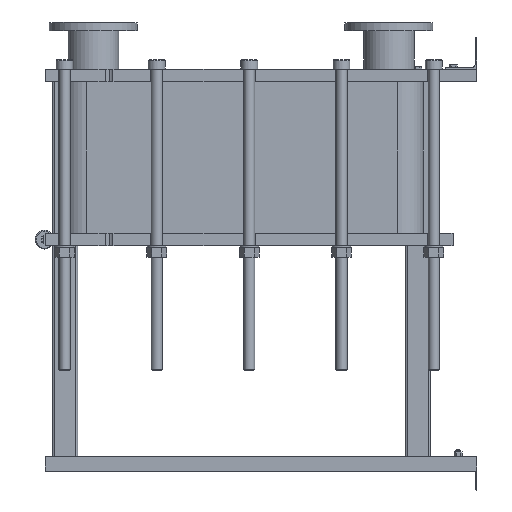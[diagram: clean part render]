
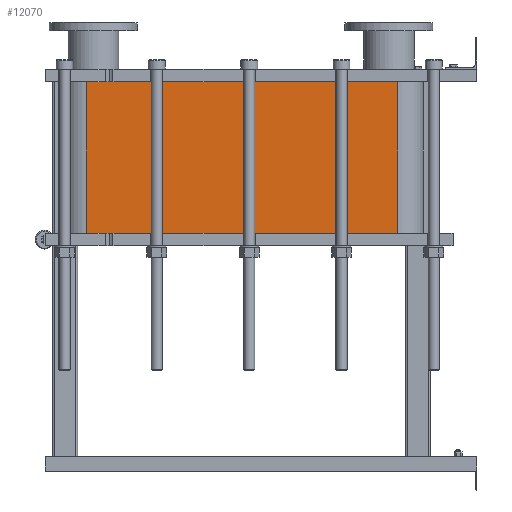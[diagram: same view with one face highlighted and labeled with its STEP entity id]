
A CAD part, left-side view. The second image highlights one B-rep face of the part: STEP entity #12070.
In plain terms, the highlighted planar face has unit normal (-1, 0, 0).
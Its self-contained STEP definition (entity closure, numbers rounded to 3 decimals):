
#1064=LINE('',#21140,#2164);
#1065=LINE('',#21144,#2165);
#1066=LINE('',#21146,#2166);
#1067=LINE('',#21147,#2167);
#2164=VECTOR('',#15790,10.);
#2165=VECTOR('',#15795,10.);
#2166=VECTOR('',#15796,10.);
#2167=VECTOR('',#15797,10.);
#3304=FACE_OUTER_BOUND('',#4091,.T.);
#4091=EDGE_LOOP('',(#9793,#9794,#9795,#9796));
#5677=VERTEX_POINT('',#21137);
#5678=VERTEX_POINT('',#21139);
#5679=VERTEX_POINT('',#21143);
#5680=VERTEX_POINT('',#21145);
#7118=EDGE_CURVE('',#5678,#5677,#1064,.T.);
#7120=EDGE_CURVE('',#5677,#5679,#1065,.T.);
#7121=EDGE_CURVE('',#5680,#5679,#1066,.T.);
#7122=EDGE_CURVE('',#5680,#5678,#1067,.T.);
#9793=ORIENTED_EDGE('',*,*,#7120,.T.);
#9794=ORIENTED_EDGE('',*,*,#7121,.F.);
#9795=ORIENTED_EDGE('',*,*,#7122,.T.);
#9796=ORIENTED_EDGE('',*,*,#7118,.T.);
#11441=PLANE('',#13191);
#12070=ADVANCED_FACE('',(#3304),#11441,.T.);
#13191=AXIS2_PLACEMENT_3D('',#21142,#15793,#15794);
#15790=DIRECTION('',(0.,0.,-1.));
#15793=DIRECTION('center_axis',(-1.,0.,0.));
#15794=DIRECTION('ref_axis',(0.,1.,0.));
#15795=DIRECTION('',(0.,-1.,0.));
#15796=DIRECTION('',(0.,0.,-1.));
#15797=DIRECTION('',(0.,1.,0.));
#21137=CARTESIAN_POINT('',(-248.152,1243.818,-483.));
#21139=CARTESIAN_POINT('',(-248.152,1243.818,0.));
#21140=CARTESIAN_POINT('',(-248.152,1243.818,0.));
#21142=CARTESIAN_POINT('Origin',(-248.152,251.818,0.));
#21143=CARTESIAN_POINT('',(-248.152,251.818,-483.));
#21144=CARTESIAN_POINT('',(-248.152,499.818,-483.));
#21145=CARTESIAN_POINT('',(-248.152,251.818,0.));
#21146=CARTESIAN_POINT('',(-248.152,251.818,0.));
#21147=CARTESIAN_POINT('',(-248.152,251.818,0.));
